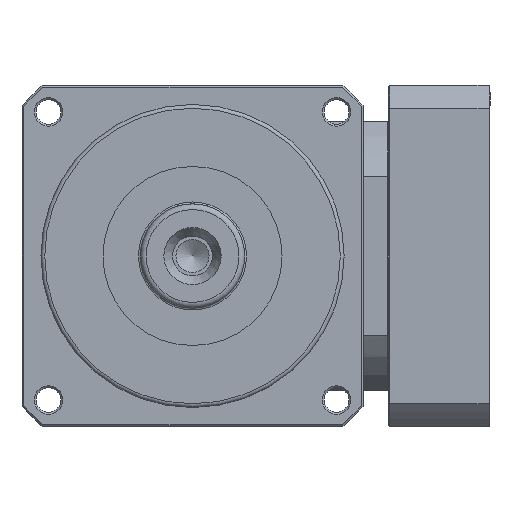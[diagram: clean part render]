
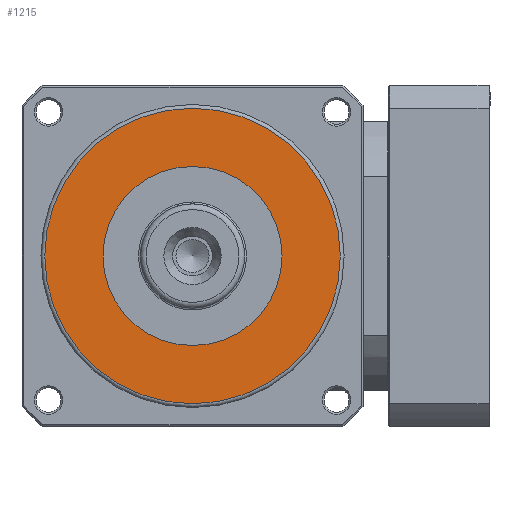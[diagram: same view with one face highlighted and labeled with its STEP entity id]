
A CAD part, left-side view. The second image highlights one B-rep face of the part: STEP entity #1215.
In plain terms, the highlighted planar face has unit normal (-1, 0, 0).
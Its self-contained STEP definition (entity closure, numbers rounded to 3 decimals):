
#243=FACE_BOUND('',#2327,.T.);
#244=FACE_BOUND('',#2328,.T.);
#829=PLANE('',#8651);
#1215=ADVANCED_FACE('',(#243,#244),#829,.T.);
#2327=EDGE_LOOP('',(#4961));
#2328=EDGE_LOOP('',(#4962));
#4961=ORIENTED_EDGE('',*,*,#7292,.F.);
#4962=ORIENTED_EDGE('',*,*,#7293,.T.);
#6325=VERTEX_POINT('',#13175);
#6326=VERTEX_POINT('',#13177);
#7292=EDGE_CURVE('',#6325,#6325,#7951,.T.);
#7293=EDGE_CURVE('',#6326,#6326,#7952,.T.);
#7951=CIRCLE('',#8649,47.25);
#7952=CIRCLE('',#8650,78.);
#8649=AXIS2_PLACEMENT_3D('',#13174,#10507,#10508);
#8650=AXIS2_PLACEMENT_3D('',#13176,#10509,#10510);
#8651=AXIS2_PLACEMENT_3D('',#13178,#10511,#10512);
#10507=DIRECTION('',(-1.,0.,0.));
#10508=DIRECTION('',(0.,0.,1.));
#10509=DIRECTION('',(-1.,0.,0.));
#10510=DIRECTION('',(0.,0.,1.));
#10511=DIRECTION('',(-1.,0.,0.));
#10512=DIRECTION('',(0.,0.,1.));
#13174=CARTESIAN_POINT('',(-211.013,19.097,0.));
#13175=CARTESIAN_POINT('',(-211.013,19.097,47.25));
#13176=CARTESIAN_POINT('',(-211.013,19.097,0.));
#13177=CARTESIAN_POINT('',(-211.013,19.097,78.));
#13178=CARTESIAN_POINT('',(-211.013,19.097,0.));
